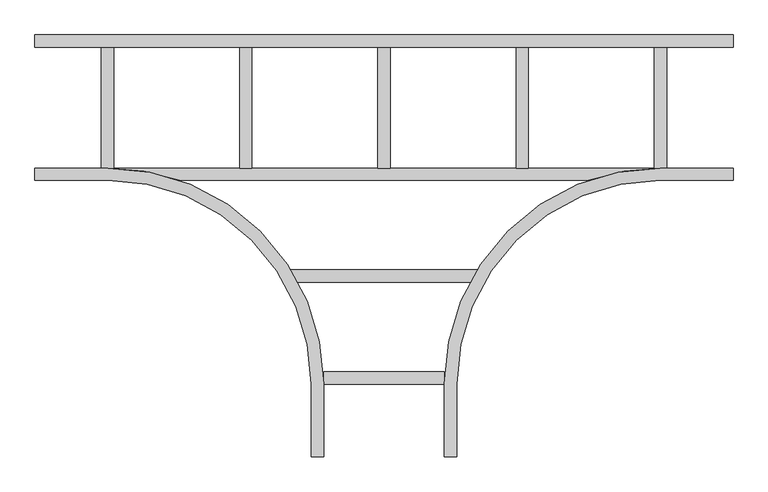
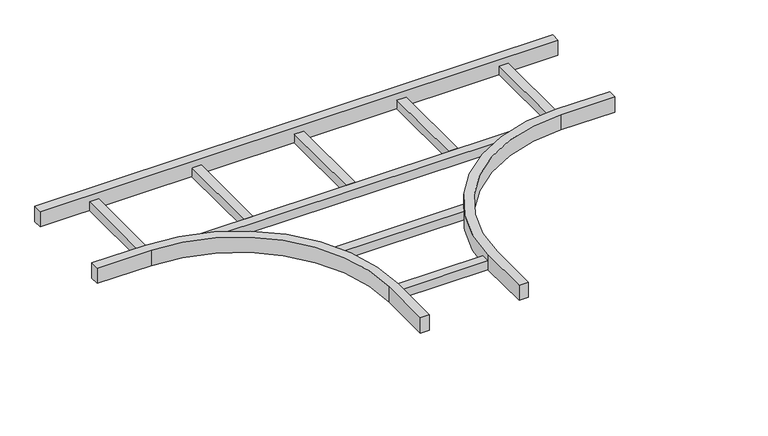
"""IFC4 building model written with IfcOpenShell, lengths in millimetres: cable carrier fitting geometry, BAKS_LD_TEE_Ladder horizontal tee_TD : TDC_H45."""

import ifcopenshell
import ifcopenshell.guid

model = None  # the IFC model being written
_history = None  # IfcOwnerHistory: only IFC2X3 demands one
_inside = {}  # id of a spatial element -> (the spatial element, [elements in it])
_under = {}  # id of a project, library or spatial element -> (it, [spatial elements below it])
_declared = {}  # id of a project -> (the project, [libraries it declares])
_typed = {}  # id of a type object -> (the type object, [elements of that type])
_made_of = {}  # id of a material, layer set ... -> (it, [elements and type objects made of it])


def new_model(schema):
    """Start an empty IFC model of exactly this schema.

    Asked for "IFC4X3", IfcOpenShell would pick the latest addendum, in which some entities
    have other attributes; the version numbers below select the first issue.
    IFC2X3 requires an IfcOwnerHistory on every rooted entity: one is made here for all.
    """
    global model, _history
    if schema == "IFC4X3":
        model = ifcopenshell.file(schema_version=(4, 3, 0, 0))
    else:
        model = ifcopenshell.file(schema=schema)
    _inside.clear()
    _under.clear()
    _declared.clear()
    _typed.clear()
    _made_of.clear()
    _history = None
    if model.schema == "IFC2X3":
        org = make("IfcOrganization", Name="unknown")
        user = make(
            "IfcPersonAndOrganization",
            ThePerson=make("IfcPerson", FamilyName="unknown"),
            TheOrganization=org,
        )
        app = make(
            "IfcApplication",
            ApplicationDeveloper=org,
            Version="unknown",
            ApplicationFullName="unknown",
            ApplicationIdentifier="unknown",
        )
        _history = make(
            "IfcOwnerHistory",
            OwningUser=user,
            OwningApplication=app,
            ChangeAction="ADDED",
            CreationDate=0,
        )
    return model


def make(cls, **values):
    """One entity of the class cls with the attributes given. An attribute that is None is left unset."""
    return model.create_entity(
        cls, **{name: value for name, value in values.items() if value is not None}
    )


def rooted(cls, **values):
    """An entity with a GlobalId (a new one), such as an element, a storey or a relation."""
    return make(cls, GlobalId=ifcopenshell.guid.new(), OwnerHistory=_history, **values)


def si_unit(unit_type, name, prefix=None):
    """IfcSIUnit, for example si_unit("LENGTHUNIT", "METRE", prefix="MILLI")."""
    return make("IfcSIUnit", UnitType=unit_type, Prefix=prefix, Name=name)


def assignment(units):
    """IfcUnitAssignment: the units of a project."""
    return None if units is None else make("IfcUnitAssignment", Units=units)


def point(xyz):
    """IfcCartesianPoint."""
    return None if xyz is None else make("IfcCartesianPoint", Coordinates=xyz)


def direction(xyz):
    """IfcDirection."""
    return None if xyz is None else make("IfcDirection", DirectionRatios=xyz)


def frame(location, z_axis=None, x_axis=None):
    """IfcAxis2Placement3D, a coordinate frame: its origin and axes. An axis left out is left unset."""
    return make(
        "IfcAxis2Placement3D",
        Location=point(location),
        Axis=direction(z_axis),
        RefDirection=direction(x_axis),
    )


def origin():
    """The frame at (0, 0, 0) with its axes left unset."""
    return frame((0.0, 0.0, 0.0))


def place(relative_to, where):
    """IfcLocalPlacement: puts the frame where relative to a parent placement (None: the world)."""
    return make(
        "IfcLocalPlacement", PlacementRelTo=relative_to, RelativePlacement=where
    )


def context(
    kind, dimensions, precision=None, world=None, true_north=None, identifier=None
):
    """IfcGeometricRepresentationContext, for example the 3D "Model" context."""
    return make(
        "IfcGeometricRepresentationContext",
        ContextIdentifier=identifier,
        ContextType=kind,
        CoordinateSpaceDimension=dimensions,
        Precision=precision,
        WorldCoordinateSystem=world,
        TrueNorth=true_north,
    )


def project(units=None, contexts=None):
    """IfcProject with its units and contexts."""
    return rooted(
        "IfcProject",
        Name="project",
        RepresentationContexts=contexts,
        UnitsInContext=assignment(units),
    )


def spatial(cls, under=None, at=None, **own):
    """A site, building, storey or space (cls), placed at a placement, below another one or the project."""
    s = rooted(cls, ObjectPlacement=at, **own)
    if under is not None:
        _under.setdefault(under.id(), (under, []))[1].append(s)
    return s


def polyline(points):
    """IfcPolyline through the points."""
    return make("IfcPolyline", Points=[point(p) for p in points])


def circle_curve(where, radius):
    """IfcCircle in the frame where."""
    return make("IfcCircle", Position=where, Radius=radius)


def outline(outer, holes=None, kind="AREA"):
    """IfcArbitraryClosedProfileDef: a profile drawn as a closed curve; with holes, ...WithVoids."""
    if holes is None:
        return make("IfcArbitraryClosedProfileDef", ProfileType=kind, OuterCurve=outer)
    return make(
        "IfcArbitraryProfileDefWithVoids",
        ProfileType=kind,
        OuterCurve=outer,
        InnerCurves=holes,
    )


def extrude(swept, where, along, depth):
    """IfcExtrudedAreaSolid: the profile swept, set in the frame where, extruded along a direction by depth."""
    return make(
        "IfcExtrudedAreaSolid",
        SweptArea=swept,
        Position=where,
        ExtrudedDirection=direction(along),
        Depth=depth,
    )


def faces_of(points, faces, orient=None, outer=None):
    """IfcFace entities. A face is a list of loops; a loop is a list of indices into points, from 0.

    orient and outer hold one flag for each loop. By default every Orientation is true, the
    first loop of a face is its IfcFaceOuterBound and the others are IfcFaceBound.
    """
    made = []
    for i, loops in enumerate(faces):
        bounds = []
        for j, loop in enumerate(loops):
            is_outer = j == 0 if outer is None else outer[i][j]
            bounds.append(
                make(
                    "IfcFaceOuterBound" if is_outer else "IfcFaceBound",
                    Bound=make("IfcPolyLoop", Polygon=[points[k] for k in loop]),
                    Orientation=True if orient is None else orient[i][j],
                )
            )
        made.append(make("IfcFace", Bounds=bounds))
    return made


def faceted_brep(points, faces, orient=None, outer=None, voids=None):
    """IfcFacetedBrep: a solid bounded by flat faces; with voids (closed shells), ...WithVoids."""
    shared = [point(p) for p in points]
    hull = make("IfcClosedShell", CfsFaces=faces_of(shared, faces, orient, outer))
    if voids is None:
        return make("IfcFacetedBrep", Outer=hull)
    return make(
        "IfcFacetedBrepWithVoids",
        Outer=hull,
        Voids=[
            make(cls, CfsFaces=faces_of(shared, fs, o, b)) for cls, fs, o, b in voids
        ],
    )


def shape(context_of_items, identifier, shape_type, items):
    """IfcShapeRepresentation: the items that make up one representation, for example the "Body"."""
    return make(
        "IfcShapeRepresentation",
        ContextOfItems=context_of_items,
        RepresentationIdentifier=identifier,
        RepresentationType=shape_type,
        Items=items,
    )


def source(mapping_origin, context_of_items, identifier, shape_type, items):
    """IfcRepresentationMap: a shape defined once, which mapped items show again and again."""
    return make(
        "IfcRepresentationMap",
        MappingOrigin=mapping_origin,
        MappedRepresentation=shape(context_of_items, identifier, shape_type, items),
    )


def transform(
    local_origin,
    x_axis=None,
    y_axis=None,
    z_axis=None,
    scale=None,
    scale2=None,
    scale3=None,
    uniform=True,
):
    """IfcCartesianTransformationOperator3D, or its non-uniform kind. x_axis, y_axis, z_axis: its Axis1, 2, 3."""
    if uniform:
        return make(
            "IfcCartesianTransformationOperator3D",
            Axis1=direction(x_axis),
            Axis2=direction(y_axis),
            LocalOrigin=point(local_origin),
            Scale=scale,
            Axis3=direction(z_axis),
        )
    return make(
        "IfcCartesianTransformationOperator3DnonUniform",
        Axis1=direction(x_axis),
        Axis2=direction(y_axis),
        LocalOrigin=point(local_origin),
        Scale=scale,
        Axis3=direction(z_axis),
        Scale2=scale2,
        Scale3=scale3,
    )


def mapped(mapping_source, mapping_target):
    """IfcMappedItem: shows the shape of a source again, moved by a transform."""
    return make(
        "IfcMappedItem", MappingSource=mapping_source, MappingTarget=mapping_target
    )


def made_of(thing, what):
    """Note that an element or type object is made of a material, layer set ...; save() writes the relation."""
    if what is not None:
        _made_of.setdefault(what.id(), (what, []))[1].append(thing)
    return thing


def element(
    cls,
    number,
    at=None,
    inside=None,
    cuts=None,
    type_object=None,
    material=None,
    context=None,
    identifier="Body",
    shape_type=None,
    held_by="IfcProductDefinitionShape",
    body=None,
    shapes=None,
    **own,
):
    """One element of the class cls, such as IfcWall. Its Tag is "e" and its number.

    at: its placement. inside: the storey or other place that contains it. cuts: it is an
    opening in that element (IfcRelVoidsElement). A single representation is given by context,
    identifier, shape_type and body (its items); several are given by shapes. held_by: the class
    of the entity that holds the representations. save() writes the other relations.
    """
    e = rooted(cls, Tag="e%d" % number, ObjectPlacement=at, **own)
    if body is not None:
        shapes = [shape(context, identifier, shape_type, body)]
    if shapes is not None:
        e.Representation = make(held_by, Representations=shapes)
    if inside is not None:
        _inside.setdefault(inside.id(), (inside, []))[1].append(e)
    if cuts is not None:
        rooted(
            "IfcRelVoidsElement", RelatingBuildingElement=cuts, RelatedOpeningElement=e
        )
    if type_object is not None:
        _typed.setdefault(type_object.id(), (type_object, []))[1].append(e)
    return made_of(e, material)


def aggregate(whole, parts):
    """IfcRelAggregates: a whole, such as a stair, and the parts it consists of."""
    return rooted("IfcRelAggregates", RelatingObject=whole, RelatedObjects=parts)


def save(model, path):
    """Write the relations noted so far, then the file.

    IfcRelAggregates (storeys below a building ...), IfcRelContainedInSpatialStructure (elements
    in a storey), IfcRelDefinesByType, IfcRelAssociatesMaterial and IfcRelDeclares: one each for
    every whole, place, type object, material and project.
    """
    for whole, parts in _under.values():
        aggregate(whole, parts)
    for where, things in _inside.values():
        rooted(
            "IfcRelContainedInSpatialStructure",
            RelatedElements=things,
            RelatingStructure=where,
        )
    for kind, things in _typed.values():
        rooted("IfcRelDefinesByType", RelatedObjects=things, RelatingType=kind)
    for what, things in _made_of.values():
        rooted("IfcRelAssociatesMaterial", RelatedObjects=things, RelatingMaterial=what)
    for by, libraries in _declared.values():
        rooted("IfcRelDeclares", RelatingContext=by, RelatedDefinitions=libraries)
    model.write(path)


def plane_surface(at):
    """IfcPlane: the flat surface through the origin of the frame at, square to its z axis."""
    return make("IfcPlane", Position=at)


def cylinder_surface(at, radius):
    """IfcCylindricalSurface: all points at the distance radius from the z axis of the frame at."""
    return make("IfcCylindricalSurface", Position=at, Radius=radius)


def revolved_surface(curve, axis_point, axis_direction):
    """IfcSurfaceOfRevolution: the curve turned about the line through axis_point along axis_direction."""
    return make(
        "IfcSurfaceOfRevolution",
        SweptCurve=make("IfcArbitraryOpenProfileDef", ProfileType="CURVE", Curve=curve),
        AxisPosition=make("IfcAxis1Placement", Location=point(axis_point), Axis=direction(axis_direction)),
    )


def advanced_brep(points, edges, surfaces, faces):
    """IfcAdvancedBrep: a solid bounded by faces that lie on surfaces and meet in shared edges.

    An edge is (start, end): straight between two places in points (the first is 0);
    or (start, end, curve); or (start, end, curve, False) where it runs against its curve.
    A face is (place in surfaces, loops), or (place, loops, False) where it looks against
    its surface's normal. A loop lists edges by number (the first is 1), with a minus sign
    where the edge is run from its end to its start. The first loop is the outer one.
    """
    corners = [point(p) for p in points]
    vertices = [make("IfcVertexPoint", VertexGeometry=c) for c in corners]
    made = []
    for start, end, *more in edges:
        made.append(
            make(
                "IfcEdgeCurve",
                EdgeStart=vertices[start],
                EdgeEnd=vertices[end],
                EdgeGeometry=more[0] if more else make("IfcPolyline", Points=[corners[start], corners[end]]),
                SameSense=more[1] if len(more) > 1 else True,
            )
        )
    hull = []
    for where, loops, *sense in faces:
        bounds = []
        for j, loop in enumerate(loops):
            ring = [make("IfcOrientedEdge", EdgeElement=made[abs(k) - 1], Orientation=k > 0) for k in loop]
            bounds.append(
                make(
                    "IfcFaceOuterBound" if j == 0 else "IfcFaceBound",
                    Bound=make("IfcEdgeLoop", EdgeList=ring),
                    Orientation=True,
                )
            )
        hull.append(make("IfcAdvancedFace", Bounds=bounds, FaceSurface=surfaces[where], SameSense=sense[0] if sense else True))
    return make("IfcAdvancedBrep", Outer=make("IfcClosedShell", CfsFaces=hull))


def cable_carrier_fitting_d30d66bc(model_context):
    return source(origin(), model_context, "Body", "SolidModel", [
        extrude(outline(polyline([(191.8889052, -334.6), (191.8889052, -360.0), (-191.8889052, -360.0), (-191.8889052, -334.6), (191.8889052, -334.6)])), frame((0.0, 0.0, -22.5), z_axis=(0.0, 0.0, 1.0), x_axis=(1.0, 0.0, 0.0)), (0.0, 0.0, 1.0), 25.4),
        extrude(outline(polyline([(124.6, -544.6), (124.6, -570.0), (-124.6, -570.0), (-124.6, -544.6), (124.6, -544.6)])), frame((0.0, 0.0, -22.5), z_axis=(0.0, 0.0, 1.0), x_axis=(1.0, 0.0, 0.0)), (0.0, 0.0, 1.0), 25.4),
        extrude(outline(polyline([(582.7, 124.6), (582.7, -124.6), (557.3, -124.6), (557.3, 124.6), (582.7, 124.6)])), frame((0.0, 0.0, -22.5), z_axis=(0.0, 0.0, 1.0), x_axis=(1.0, 0.0, 0.0)), (0.0, 0.0, 1.0), 25.4),
        extrude(outline(polyline([(297.7, 124.6), (297.7, -124.6), (272.3, -124.6), (272.3, 124.6), (297.7, 124.6)])), frame((0.0, 0.0, -22.5), z_axis=(0.0, 0.0, 1.0), x_axis=(1.0, 0.0, 0.0)), (0.0, 0.0, 1.0), 25.4),
        extrude(outline(polyline([(12.7, 124.6), (12.7, -124.6), (-12.7, -124.6), (-12.7, 124.6), (12.7, 124.6)])), frame((0.0, 0.0, -22.5), z_axis=(0.0, 0.0, 1.0), x_axis=(1.0, 0.0, 0.0)), (0.0, 0.0, 1.0), 25.4),
        extrude(outline(polyline([(-272.3, 124.6), (-272.3, -124.6), (-297.7, -124.6), (-297.7, 124.6), (-272.3, 124.6)])), frame((0.0, 0.0, -22.5), z_axis=(0.0, 0.0, 1.0), x_axis=(1.0, 0.0, 0.0)), (0.0, 0.0, 1.0), 25.4),
        extrude(outline(polyline([(-557.3, 124.6), (-557.3, -124.6), (-582.7, -124.6), (-582.7, 124.6), (-557.3, 124.6)])), frame((0.0, 0.0, -22.5), z_axis=(0.0, 0.0, 1.0), x_axis=(1.0, 0.0, 0.0)), (0.0, 0.0, 1.0), 25.4),
        advanced_brep(
        [(-150.0, -570.0, 22.5), (-150.0, -720.0, 22.5), (-124.6, -720.0, 22.5), (-124.6, -570.0, 22.5), (-570.0, -124.6, 22.5), (-720.0, -124.6, 22.5), (-720.0, -150.0, 22.5), (-570.0, -150.0, 22.5), (150.0, -570.0, 22.5), (570.0, -150.0, 22.5), (720.0, -150.0, 22.5), (720.0, -124.6, 22.5), (570.0, -124.6, 22.5), (124.6, -570.0, 22.5), (124.6, -720.0, 22.5), (150.0, -720.0, 22.5), (-150.0, -570.0, -22.5), (-570.0, -150.0, -22.5), (-720.0, -150.0, -22.5), (-720.0, -124.6, -22.5), (720.0, -124.6, -22.5), (720.0, -150.0, -22.5), (570.0, -150.0, -22.5), (150.0, -570.0, -22.5), (150.0, -720.0, -22.5), (124.6, -720.0, -22.5), (124.6, -570.0, -22.5), (421.7395535, -150.0, -22.5), (-421.7395535, -150.0, -22.5), (-124.6, -570.0, -22.5), (-124.6, -720.0, -22.5), (-150.0, -720.0, -22.5), (-421.7395535, -150.0, 2.9), (-570.0, -124.6, 2.9), (570.0, -124.6, 2.9), (-570.0, -150.0, 2.9), (570.0, -150.0, 2.9), (421.7395535, -150.0, 2.9)],
        [
            (0, 1),
            (1, 2),
            (2, 3),
            (3, 4, circle_curve(frame((-570.0, -570.0, 22.5), z_axis=(0.0, 0.0, 1.0), x_axis=(1.0, 0.0, 0.0)), 445.4)),
            (4, 5),
            (5, 6),
            (6, 7),
            (7, 0, circle_curve(frame((-570.0, -570.0, 22.5), z_axis=(0.0, 0.0, -1.0), x_axis=(1.0, 0.0, 0.0)), 420.0)),
            (8, 9, circle_curve(frame((570.0, -570.0, 22.5), z_axis=(0.0, 0.0, -1.0), x_axis=(1.0, 0.0, 0.0)), 420.0)),
            (9, 10),
            (10, 11),
            (11, 12),
            (12, 13, circle_curve(frame((570.0, -570.0, 22.5), z_axis=(0.0, 0.0, 1.0), x_axis=(1.0, 0.0, 0.0)), 445.4)),
            (13, 14),
            (14, 15),
            (15, 8),
            (16, 17, circle_curve(frame((-570.0, -570.0, -22.5), z_axis=(0.0, 0.0, 1.0), x_axis=(1.0, 0.0, 0.0)), 420.0)),
            (17, 18),
            (18, 19),
            (19, 20),
            (20, 21),
            (21, 22),
            (22, 23, circle_curve(frame((570.0, -570.0, -22.5), z_axis=(0.0, 0.0, 1.0), x_axis=(1.0, 0.0, 0.0)), 420.0)),
            (23, 24),
            (24, 25),
            (25, 26),
            (26, 27, circle_curve(frame((570.0, -570.0, -22.5), z_axis=(0.0, 0.0, -1.0), x_axis=(1.0, 0.0, 0.0)), 445.4)),
            (27, 28),
            (28, 29, circle_curve(frame((-570.0, -570.0, -22.5), z_axis=(0.0, 0.0, -1.0), x_axis=(1.0, 0.0, 0.0)), 445.4)),
            (29, 30),
            (30, 31),
            (31, 16),
            (0, 16),
            (31, 1),
            (30, 2),
            (29, 3),
            (28, 32),
            (32, 33, circle_curve(frame((-570.0, -570.0, 2.9), z_axis=(0.0, 0.0, 1.0), x_axis=(1.0, 0.0, 0.0)), 445.4)),
            (33, 4),
            (33, 34),
            (34, 12),
            (11, 20),
            (19, 5),
            (18, 6),
            (17, 35),
            (35, 7),
            (8, 23),
            (22, 36),
            (36, 9),
            (21, 10),
            (34, 37, circle_curve(frame((570.0, -570.0, 2.9), z_axis=(0.0, 0.0, 1.0), x_axis=(1.0, 0.0, 0.0)), 445.4)),
            (37, 27),
            (26, 13),
            (25, 14),
            (24, 15),
            (32, 37),
        ],
        [
            plane_surface(frame((-150.0, -570.0, 22.5), z_axis=(0.0, 0.0, 1.0), x_axis=(0.0, -1.0, 0.0))),
            plane_surface(frame((-150.0, -570.0, -22.5), z_axis=(0.0, 0.0, -1.0), x_axis=(0.0, 1.0, 0.0))),
            plane_surface(frame((-150.0, -570.0, 22.5), z_axis=(-1.0, 0.0, 0.0), x_axis=(0.0, 0.0, -1.0))),
            plane_surface(frame((-150.0, -720.0, 22.5), z_axis=(0.0, -1.0, 0.0), x_axis=(0.0, 0.0, -1.0))),
            plane_surface(frame((-124.6, -720.0, 22.5), z_axis=(1.0, 0.0, 0.0), x_axis=(0.0, 0.0, -1.0))),
            cylinder_surface(frame((-570.0, -570.0, -22.5), z_axis=(0.0, 0.0, 1.0), x_axis=(1.0, 0.0, 0.0)), 445.4),
            plane_surface(frame((-570.0, -124.6, 22.5), z_axis=(0.0, 1.0, 0.0), x_axis=(0.0, 0.0, -1.0))),
            plane_surface(frame((-720.0, -124.6, 22.5), z_axis=(-1.0, 0.0, 0.0), x_axis=(0.0, 0.0, -1.0))),
            plane_surface(frame((-720.0, -150.0, 22.5), z_axis=(0.0, -1.0, 0.0), x_axis=(0.0, 0.0, -1.0))),
            revolved_surface(polyline([(-150.0, -570.0, -22.5), (-150.0, -570.0, 22.5)]), (-570.0, -570.0, -22.5), (0.0, 0.0, -1.0)),
            revolved_surface(polyline([(990.0, -570.0, -22.5), (990.0, -570.0, 22.5)]), (570.0, -570.0, 0.0), (0.0, 0.0, -1.0)),
            plane_surface(frame((570.0, -150.0, 22.5), z_axis=(0.0, -1.0, 0.0), x_axis=(0.0, 0.0, -1.0))),
            plane_surface(frame((720.0, -150.0, 22.5), z_axis=(1.0, 0.0, 0.0), x_axis=(0.0, 0.0, -1.0))),
            cylinder_surface(frame((570.0, -570.0, 0.0), z_axis=(0.0, 0.0, 1.0), x_axis=(1.0, 0.0, 0.0)), 445.4),
            plane_surface(frame((124.6, -570.0, 22.5), z_axis=(-1.0, 0.0, 0.0), x_axis=(0.0, 0.0, -1.0))),
            plane_surface(frame((124.6, -720.0, 22.5), z_axis=(0.0, -1.0, 0.0), x_axis=(0.0, 0.0, -1.0))),
            plane_surface(frame((150.0, -720.0, 22.5), z_axis=(1.0, 0.0, 0.0), x_axis=(0.0, 0.0, -1.0))),
            plane_surface(frame((-570.0, -124.6, 2.9), z_axis=(0.0, 0.0, 1.0), x_axis=(-1.0, 0.0, 0.0))),
            plane_surface(frame((-570.0, -150.0, 2.9), z_axis=(0.0, -1.0, 0.0), x_axis=(0.0, 0.0, -1.0))),
        ],
        [
            (0, [[1, 2, 3, 4, 5, 6, 7, 8]]),
            (0, [[9, 10, 11, 12, 13, 14, 15, 16]]),
            (1, [[17, 18, 19, 20, 21, 22, 23, 24, 25, 26, 27, 28, 29, 30, 31, 32]]),
            (2, [[-1, 33, -32, 34]]),
            (3, [[-2, -34, -31, 35]]),
            (4, [[-3, -35, -30, 36]]),
            (5, [[-4, -36, -29, 37, 38, 39]]),
            (6, [[-5, -39, 40, 41, -12, 42, -20, 43]]),
            (7, [[-6, -43, -19, 44]]),
            (8, [[-7, -44, -18, 45, 46]]),
            (9, [[-8, -46, -45, -17, -33]]),
            (10, [[-9, 47, -23, 48, 49]]),
            (11, [[-10, -49, -48, -22, 50]]),
            (12, [[-11, -50, -21, -42]]),
            (13, [[-13, -41, 51, 52, -27, 53]]),
            (14, [[-14, -53, -26, 54]]),
            (15, [[-15, -54, -25, 55]]),
            (16, [[-16, -55, -24, -47]]),
            (17, [[-40, -38, 56, -51]]),
            (18, [[-28, -52, -56, -37]]),
        ],
    ),
        faceted_brep([(720.0, 150.0, 22.5), (-720.0, 150.0, 22.5), (-720.0, 124.6, 22.5), (720.0, 124.6, 22.5), (720.0, 150.0, -22.5), (720.0, 124.6, -22.5), (-720.0, 124.6, -22.5), (-720.0, 150.0, -22.5)], [[[0, 1, 2, 3]], [[4, 5, 6, 7]], [[1, 0, 4, 7]], [[2, 1, 7, 6]], [[3, 2, 6, 5]], [[0, 3, 5, 4]]]),
    ])


if __name__ == "__main__":
    model = new_model("IFC4")
    model_context = context("Model", 3, world=origin())
    ifc_project = project(units=[si_unit("LENGTHUNIT", "METRE", prefix="MILLI")], contexts=[model_context])
    site = spatial("IfcSite", under=ifc_project)
    building = spatial("IfcBuilding", under=site)
    placement = place(None, origin())
    cable_carrier_fitting_shape = cable_carrier_fitting_d30d66bc(model_context)
    element("IfcCableCarrierFitting", 1, ObjectType="BAKS_LD_TEE_Ladder horizontal tee_TD : TDC_H45", at=placement, inside=building, context=model_context, shape_type="MappedRepresentation", body=[
        mapped(cable_carrier_fitting_shape, transform((0.0, 0.0, 0.0), x_axis=(1.0, 0.0, 0.0), y_axis=(0.0, 1.0, 0.0), z_axis=(0.0, 0.0, 1.0))),
    ])
    save(model, "model.ifc")
